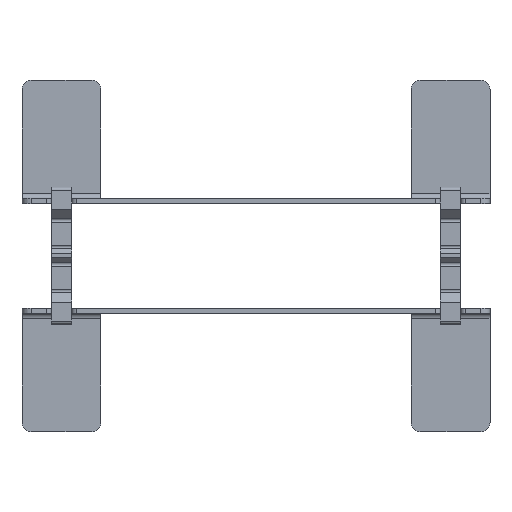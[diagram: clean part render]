
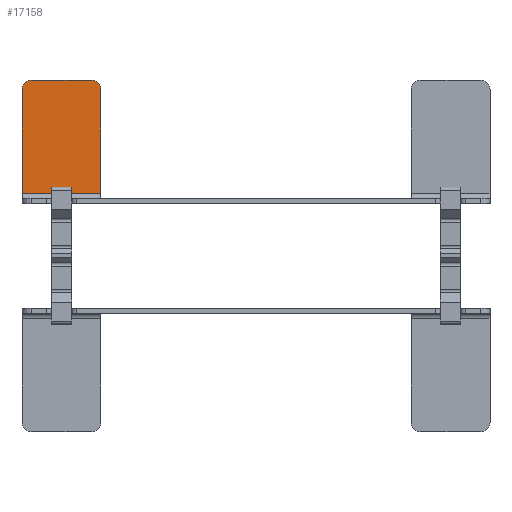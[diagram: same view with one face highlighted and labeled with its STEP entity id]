
A CAD part, top view. The second image highlights one B-rep face of the part: STEP entity #17158.
In plain terms, the highlighted planar face has unit normal (0, 0, 1).
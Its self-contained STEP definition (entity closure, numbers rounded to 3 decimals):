
#17050=CARTESIAN_POINT('',(-104.329,111.418,-5.));
#17051=VERTEX_POINT('',#17050);
#17052=CARTESIAN_POINT('',(-142.329,111.418,-5.));
#17053=VERTEX_POINT('',#17052);
#17054=CARTESIAN_POINT('',(-104.329,111.418,-5.));
#17055=DIRECTION('',(-1.,0.,0.));
#17056=VECTOR('',#17055,38.);
#17057=LINE('',#17054,#17056);
#17058=EDGE_CURVE('',#17051,#17053,#17057,.T.);
#17100=CARTESIAN_POINT('',(-98.329,105.418,-5.));
#17101=VERTEX_POINT('',#17100);
#17102=CARTESIAN_POINT('',(-104.329,105.418,-5.));
#17103=DIRECTION('',(0.,-0.,-1.));
#17104=DIRECTION('',(1.,0.,0.));
#17105=AXIS2_PLACEMENT_3D('',#17102,#17103,#17104);
#17106=CIRCLE('',#17105,6.);
#17107=EDGE_CURVE('',#17051,#17101,#17106,.T.);
#17118=CARTESIAN_POINT('',(-148.329,33.238,-5.));
#17119=DIRECTION('',(0.,0.,1.));
#17120=DIRECTION('',(1.,0.,0.));
#17121=AXIS2_PLACEMENT_3D('',#17118,#17119,#17120);
#17122=PLANE('',#17121);
#17123=CARTESIAN_POINT('',(-148.329,105.418,-5.));
#17124=VERTEX_POINT('',#17123);
#17125=CARTESIAN_POINT('',(-148.329,39.598,-5.));
#17126=VERTEX_POINT('',#17125);
#17127=CARTESIAN_POINT('',(-148.329,105.418,-5.));
#17128=DIRECTION('',(0.,-1.,0.));
#17129=VECTOR('',#17128,65.82);
#17130=LINE('',#17127,#17129);
#17131=EDGE_CURVE('',#17124,#17126,#17130,.T.);
#17132=ORIENTED_EDGE('',*,*,#17131,.T.);
#17133=CARTESIAN_POINT('',(-98.329,39.598,-5.));
#17134=VERTEX_POINT('',#17133);
#17135=CARTESIAN_POINT('',(-98.329,39.598,-5.));
#17136=DIRECTION('',(-1.,-0.,0.));
#17137=VECTOR('',#17136,50.);
#17138=LINE('',#17135,#17137);
#17139=EDGE_CURVE('',#17134,#17126,#17138,.T.);
#17140=ORIENTED_EDGE('',*,*,#17139,.F.);
#17141=CARTESIAN_POINT('',(-98.329,39.598,-5.));
#17142=DIRECTION('',(0.,1.,-0.));
#17143=VECTOR('',#17142,65.82);
#17144=LINE('',#17141,#17143);
#17145=EDGE_CURVE('',#17134,#17101,#17144,.T.);
#17146=ORIENTED_EDGE('',*,*,#17145,.T.);
#17147=ORIENTED_EDGE('',*,*,#17107,.F.);
#17148=ORIENTED_EDGE('',*,*,#17058,.T.);
#17149=CARTESIAN_POINT('',(-142.329,105.418,-5.));
#17150=DIRECTION('',(0.,-0.,-1.));
#17151=DIRECTION('',(1.,0.,0.));
#17152=AXIS2_PLACEMENT_3D('',#17149,#17150,#17151);
#17153=CIRCLE('',#17152,6.);
#17154=EDGE_CURVE('',#17124,#17053,#17153,.T.);
#17155=ORIENTED_EDGE('',*,*,#17154,.F.);
#17156=EDGE_LOOP('',(#17132,#17140,#17146,#17147,#17148,#17155));
#17157=FACE_BOUND('',#17156,.T.);
#17158=ADVANCED_FACE('',(#17157),#17122,.T.);
